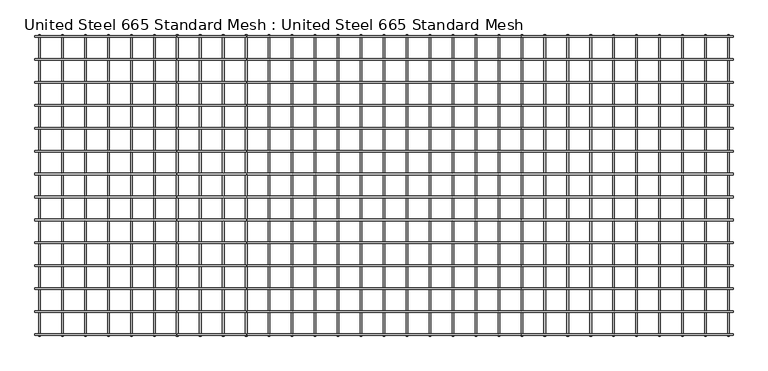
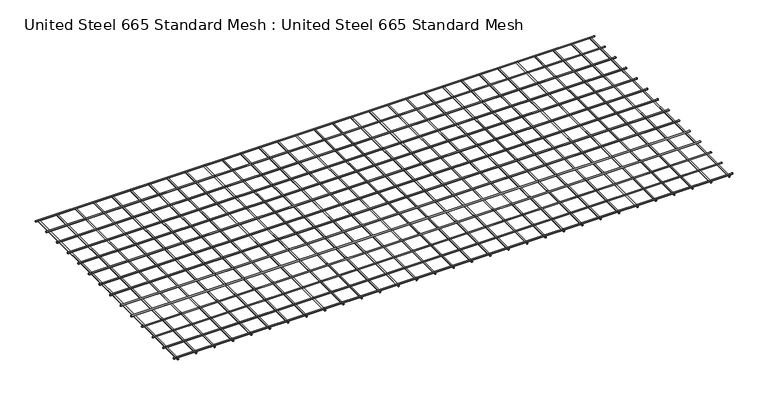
"""IFC4 building model written with IfcOpenShell, lengths in millimetres: proxy geometry, United Steel 665 Standard Mesh : United Steel 665 Standard Mesh."""

from ifc_helpers import new_model, si_unit, point, frame, frame_2d, origin, place, context, project, spatial, circle_curve, trimmed, segment, composite_curve, outline, extrude, source, transform, mapped, element, save


def united_steel_665_standard_mesh_united_steel_665_standard_acaadd5a(model_context):
    return source(origin(), model_context, "Body", "SweptSolid", [
        extrude(outline(composite_curve([segment(trimmed(circle_curve(frame_2d((-160.258988, 15.8848475)), 5.3), [point((-165.558988, 15.8848475))], [point((-154.958988, 15.8848475))], False, "CARTESIAN"), True, "CONTINUOUS"), segment(trimmed(circle_curve(frame_2d((-160.258988, 15.8848475)), 5.3), [point((-154.958988, 15.8848475))], [point((-165.558988, 15.8848475))], False, "CARTESIAN"), True, "CONTINUOUS")], self_intersect=False)), frame((-4560.0, 0.0, 0.0), z_axis=(1.0, 0.0, 0.0), x_axis=(0.0, 1.0, 0.0)), (0.0, 0.0, 1.0), 4560.0),
        extrude(outline(composite_curve([segment(trimmed(circle_curve(frame_2d((5.2898928, -4380.0336269)), 5.3), [point((5.2898928, -4385.3336269))], [point((5.2898928, -4374.7336269))], False, "CARTESIAN"), True, "CONTINUOUS"), segment(trimmed(circle_curve(frame_2d((5.2898928, -4380.0336269)), 5.3), [point((5.2898928, -4374.7336269))], [point((5.2898928, -4385.3336269))], False, "CARTESIAN"), True, "CONTINUOUS")], self_intersect=False)), frame((0.0, -1970.0, 0.0), z_axis=(0.0, 1.0, 0.0), x_axis=(0.0, 0.0, 1.0)), (0.0, 0.0, 1.0), 1970.0),
        extrude(outline(composite_curve([segment(trimmed(circle_curve(frame_2d((-310.2633498, 15.8848475)), 5.3), [point((-315.5633498, 15.8848475))], [point((-304.9633498, 15.8848475))], False, "CARTESIAN"), True, "CONTINUOUS"), segment(trimmed(circle_curve(frame_2d((-310.2633498, 15.8848475)), 5.3), [point((-304.9633498, 15.8848475))], [point((-315.5633498, 15.8848475))], False, "CARTESIAN"), True, "CONTINUOUS")], self_intersect=False)), frame((-4560.0, 0.0, 0.0), z_axis=(1.0, 0.0, 0.0), x_axis=(0.0, 1.0, 0.0)), (0.0, 0.0, 1.0), 4560.0),
        extrude(outline(composite_curve([segment(trimmed(circle_curve(frame_2d((-460.2677116, 15.8848475)), 5.3), [point((-465.5677116, 15.8848475))], [point((-454.9677116, 15.8848475))], False, "CARTESIAN"), True, "CONTINUOUS"), segment(trimmed(circle_curve(frame_2d((-460.2677116, 15.8848475)), 5.3), [point((-454.9677116, 15.8848475))], [point((-465.5677116, 15.8848475))], False, "CARTESIAN"), True, "CONTINUOUS")], self_intersect=False)), frame((-4560.0, 0.0, 0.0), z_axis=(1.0, 0.0, 0.0), x_axis=(0.0, 1.0, 0.0)), (0.0, 0.0, 1.0), 4560.0),
        extrude(outline(composite_curve([segment(trimmed(circle_curve(frame_2d((5.2898928, -4230.0270638)), 5.3), [point((5.2898928, -4235.3270638))], [point((5.2898928, -4224.7270638))], False, "CARTESIAN"), True, "CONTINUOUS"), segment(trimmed(circle_curve(frame_2d((5.2898928, -4230.0270638)), 5.3), [point((5.2898928, -4224.7270638))], [point((5.2898928, -4235.3270638))], False, "CARTESIAN"), True, "CONTINUOUS")], self_intersect=False)), frame((0.0, -1970.0, 0.0), z_axis=(0.0, 1.0, 0.0), x_axis=(0.0, 0.0, 1.0)), (0.0, 0.0, 1.0), 1970.0),
        extrude(outline(composite_curve([segment(trimmed(circle_curve(frame_2d((5.2898928, -4080.0205008)), 5.3), [point((5.2898928, -4085.3205008))], [point((5.2898928, -4074.7205008))], False, "CARTESIAN"), True, "CONTINUOUS"), segment(trimmed(circle_curve(frame_2d((5.2898928, -4080.0205008)), 5.3), [point((5.2898928, -4074.7205008))], [point((5.2898928, -4085.3205008))], False, "CARTESIAN"), True, "CONTINUOUS")], self_intersect=False)), frame((0.0, -1970.0, 0.0), z_axis=(0.0, 1.0, 0.0), x_axis=(0.0, 0.0, 1.0)), (0.0, 0.0, 1.0), 1970.0),
        extrude(outline(composite_curve([segment(trimmed(circle_curve(frame_2d((5.2898928, -3930.0139377)), 5.3), [point((5.2898928, -3935.3139377))], [point((5.2898928, -3924.7139377))], False, "CARTESIAN"), True, "CONTINUOUS"), segment(trimmed(circle_curve(frame_2d((5.2898928, -3930.0139377)), 5.3), [point((5.2898928, -3924.7139377))], [point((5.2898928, -3935.3139377))], False, "CARTESIAN"), True, "CONTINUOUS")], self_intersect=False)), frame((0.0, -1970.0, 0.0), z_axis=(0.0, 1.0, 0.0), x_axis=(0.0, 0.0, 1.0)), (0.0, 0.0, 1.0), 1970.0),
        extrude(outline(composite_curve([segment(trimmed(circle_curve(frame_2d((5.2898928, -3780.0073746)), 5.3), [point((5.2898928, -3785.3073746))], [point((5.2898928, -3774.7073746))], False, "CARTESIAN"), True, "CONTINUOUS"), segment(trimmed(circle_curve(frame_2d((5.2898928, -3780.0073746)), 5.3), [point((5.2898928, -3774.7073746))], [point((5.2898928, -3785.3073746))], False, "CARTESIAN"), True, "CONTINUOUS")], self_intersect=False)), frame((0.0, -1970.0, 0.0), z_axis=(0.0, 1.0, 0.0), x_axis=(0.0, 0.0, 1.0)), (0.0, 0.0, 1.0), 1970.0),
        extrude(outline(composite_curve([segment(trimmed(circle_curve(frame_2d((5.2898928, -3630.0008116)), 5.3), [point((5.2898928, -3635.3008116))], [point((5.2898928, -3624.7008116))], False, "CARTESIAN"), True, "CONTINUOUS"), segment(trimmed(circle_curve(frame_2d((5.2898928, -3630.0008116)), 5.3), [point((5.2898928, -3624.7008116))], [point((5.2898928, -3635.3008116))], False, "CARTESIAN"), True, "CONTINUOUS")], self_intersect=False)), frame((0.0, -1970.0, 0.0), z_axis=(0.0, 1.0, 0.0), x_axis=(0.0, 0.0, 1.0)), (0.0, 0.0, 1.0), 1970.0),
        extrude(outline(composite_curve([segment(trimmed(circle_curve(frame_2d((5.2898928, -3479.9942485)), 5.3), [point((5.2898928, -3485.2942485))], [point((5.2898928, -3474.6942485))], False, "CARTESIAN"), True, "CONTINUOUS"), segment(trimmed(circle_curve(frame_2d((5.2898928, -3479.9942485)), 5.3), [point((5.2898928, -3474.6942485))], [point((5.2898928, -3485.2942485))], False, "CARTESIAN"), True, "CONTINUOUS")], self_intersect=False)), frame((0.0, -1970.0, 0.0), z_axis=(0.0, 1.0, 0.0), x_axis=(0.0, 0.0, 1.0)), (0.0, 0.0, 1.0), 1970.0),
        extrude(outline(composite_curve([segment(trimmed(circle_curve(frame_2d((5.2898928, -3329.9876855)), 5.3), [point((5.2898928, -3335.2876855))], [point((5.2898928, -3324.6876855))], False, "CARTESIAN"), True, "CONTINUOUS"), segment(trimmed(circle_curve(frame_2d((5.2898928, -3329.9876855)), 5.3), [point((5.2898928, -3324.6876855))], [point((5.2898928, -3335.2876855))], False, "CARTESIAN"), True, "CONTINUOUS")], self_intersect=False)), frame((0.0, -1970.0, 0.0), z_axis=(0.0, 1.0, 0.0), x_axis=(0.0, 0.0, 1.0)), (0.0, 0.0, 1.0), 1970.0),
        extrude(outline(composite_curve([segment(trimmed(circle_curve(frame_2d((-610.2720734, 15.8848475)), 5.3), [point((-615.5720734, 15.8848475))], [point((-604.9720734, 15.8848475))], False, "CARTESIAN"), True, "CONTINUOUS"), segment(trimmed(circle_curve(frame_2d((-610.2720734, 15.8848475)), 5.3), [point((-604.9720734, 15.8848475))], [point((-615.5720734, 15.8848475))], False, "CARTESIAN"), True, "CONTINUOUS")], self_intersect=False)), frame((-4560.0, 0.0, 0.0), z_axis=(1.0, 0.0, 0.0), x_axis=(0.0, 1.0, 0.0)), (0.0, 0.0, 1.0), 4560.0),
        extrude(outline(composite_curve([segment(trimmed(circle_curve(frame_2d((-760.2764352, 15.8848475)), 5.3), [point((-765.5764352, 15.8848475))], [point((-754.9764352, 15.8848475))], False, "CARTESIAN"), True, "CONTINUOUS"), segment(trimmed(circle_curve(frame_2d((-760.2764352, 15.8848475)), 5.3), [point((-754.9764352, 15.8848475))], [point((-765.5764352, 15.8848475))], False, "CARTESIAN"), True, "CONTINUOUS")], self_intersect=False)), frame((-4560.0, 0.0, 0.0), z_axis=(1.0, 0.0, 0.0), x_axis=(0.0, 1.0, 0.0)), (0.0, 0.0, 1.0), 4560.0),
        extrude(outline(composite_curve([segment(trimmed(circle_curve(frame_2d((-910.280797, 15.8848475)), 5.3), [point((-915.580797, 15.8848475))], [point((-904.980797, 15.8848475))], False, "CARTESIAN"), True, "CONTINUOUS"), segment(trimmed(circle_curve(frame_2d((-910.280797, 15.8848475)), 5.3), [point((-904.980797, 15.8848475))], [point((-915.580797, 15.8848475))], False, "CARTESIAN"), True, "CONTINUOUS")], self_intersect=False)), frame((-4560.0, 0.0, 0.0), z_axis=(1.0, 0.0, 0.0), x_axis=(0.0, 1.0, 0.0)), (0.0, 0.0, 1.0), 4560.0),
        extrude(outline(composite_curve([segment(trimmed(circle_curve(frame_2d((-1060.2851588, 15.8848475)), 5.3), [point((-1065.5851588, 15.8848475))], [point((-1054.9851588, 15.8848475))], False, "CARTESIAN"), True, "CONTINUOUS"), segment(trimmed(circle_curve(frame_2d((-1060.2851588, 15.8848475)), 5.3), [point((-1054.9851588, 15.8848475))], [point((-1065.5851588, 15.8848475))], False, "CARTESIAN"), True, "CONTINUOUS")], self_intersect=False)), frame((-4560.0, 0.0, 0.0), z_axis=(1.0, 0.0, 0.0), x_axis=(0.0, 1.0, 0.0)), (0.0, 0.0, 1.0), 4560.0),
        extrude(outline(composite_curve([segment(trimmed(circle_curve(frame_2d((-1210.2895206, 15.8848475)), 5.3), [point((-1215.5895206, 15.8848475))], [point((-1204.9895206, 15.8848475))], False, "CARTESIAN"), True, "CONTINUOUS"), segment(trimmed(circle_curve(frame_2d((-1210.2895206, 15.8848475)), 5.3), [point((-1204.9895206, 15.8848475))], [point((-1215.5895206, 15.8848475))], False, "CARTESIAN"), True, "CONTINUOUS")], self_intersect=False)), frame((-4560.0, 0.0, 0.0), z_axis=(1.0, 0.0, 0.0), x_axis=(0.0, 1.0, 0.0)), (0.0, 0.0, 1.0), 4560.0),
        extrude(outline(composite_curve([segment(trimmed(circle_curve(frame_2d((-1360.2938824, 15.8848475)), 5.3), [point((-1365.5938824, 15.8848475))], [point((-1354.9938824, 15.8848475))], False, "CARTESIAN"), True, "CONTINUOUS"), segment(trimmed(circle_curve(frame_2d((-1360.2938824, 15.8848475)), 5.3), [point((-1354.9938824, 15.8848475))], [point((-1365.5938824, 15.8848475))], False, "CARTESIAN"), True, "CONTINUOUS")], self_intersect=False)), frame((-4560.0, 0.0, 0.0), z_axis=(1.0, 0.0, 0.0), x_axis=(0.0, 1.0, 0.0)), (0.0, 0.0, 1.0), 4560.0),
        extrude(outline(composite_curve([segment(trimmed(circle_curve(frame_2d((-1510.2982442, 15.8848475)), 5.3), [point((-1515.5982442, 15.8848475))], [point((-1504.9982442, 15.8848475))], False, "CARTESIAN"), True, "CONTINUOUS"), segment(trimmed(circle_curve(frame_2d((-1510.2982442, 15.8848475)), 5.3), [point((-1504.9982442, 15.8848475))], [point((-1515.5982442, 15.8848475))], False, "CARTESIAN"), True, "CONTINUOUS")], self_intersect=False)), frame((-4560.0, 0.0, 0.0), z_axis=(1.0, 0.0, 0.0), x_axis=(0.0, 1.0, 0.0)), (0.0, 0.0, 1.0), 4560.0),
        extrude(outline(composite_curve([segment(trimmed(circle_curve(frame_2d((-1660.302606, 15.8848475)), 5.3), [point((-1665.602606, 15.8848475))], [point((-1655.002606, 15.8848475))], False, "CARTESIAN"), True, "CONTINUOUS"), segment(trimmed(circle_curve(frame_2d((-1660.302606, 15.8848475)), 5.3), [point((-1655.002606, 15.8848475))], [point((-1665.602606, 15.8848475))], False, "CARTESIAN"), True, "CONTINUOUS")], self_intersect=False)), frame((-4560.0, 0.0, 0.0), z_axis=(1.0, 0.0, 0.0), x_axis=(0.0, 1.0, 0.0)), (0.0, 0.0, 1.0), 4560.0),
        extrude(outline(composite_curve([segment(trimmed(circle_curve(frame_2d((-1810.3069678, 15.8848475)), 5.3), [point((-1815.6069678, 15.8848475))], [point((-1805.0069678, 15.8848475))], False, "CARTESIAN"), True, "CONTINUOUS"), segment(trimmed(circle_curve(frame_2d((-1810.3069678, 15.8848475)), 5.3), [point((-1805.0069678, 15.8848475))], [point((-1815.6069678, 15.8848475))], False, "CARTESIAN"), True, "CONTINUOUS")], self_intersect=False)), frame((-4560.0, 0.0, 0.0), z_axis=(1.0, 0.0, 0.0), x_axis=(0.0, 1.0, 0.0)), (0.0, 0.0, 1.0), 4560.0),
        extrude(outline(composite_curve([segment(trimmed(circle_curve(frame_2d((-10.2546262, 15.8848475)), 5.3), [point((-15.5546262, 15.8848475))], [point((-4.9546262, 15.8848475))], False, "CARTESIAN"), True, "CONTINUOUS"), segment(trimmed(circle_curve(frame_2d((-10.2546262, 15.8848475)), 5.3), [point((-4.9546262, 15.8848475))], [point((-15.5546262, 15.8848475))], False, "CARTESIAN"), True, "CONTINUOUS")], self_intersect=False)), frame((-4560.0, 0.0, 0.0), z_axis=(1.0, 0.0, 0.0), x_axis=(0.0, 1.0, 0.0)), (0.0, 0.0, 1.0), 4560.0),
        extrude(outline(composite_curve([segment(trimmed(circle_curve(frame_2d((-1960.3113296, 15.8848475)), 5.3), [point((-1965.6113296, 15.8848475))], [point((-1955.0113296, 15.8848475))], False, "CARTESIAN"), True, "CONTINUOUS"), segment(trimmed(circle_curve(frame_2d((-1960.3113296, 15.8848475)), 5.3), [point((-1955.0113296, 15.8848475))], [point((-1965.6113296, 15.8848475))], False, "CARTESIAN"), True, "CONTINUOUS")], self_intersect=False)), frame((-4560.0, 0.0, 0.0), z_axis=(1.0, 0.0, 0.0), x_axis=(0.0, 1.0, 0.0)), (0.0, 0.0, 1.0), 4560.0),
        extrude(outline(composite_curve([segment(trimmed(circle_curve(frame_2d((5.2898928, -3179.9811224)), 5.3), [point((5.2898928, -3185.2811224))], [point((5.2898928, -3174.6811224))], False, "CARTESIAN"), True, "CONTINUOUS"), segment(trimmed(circle_curve(frame_2d((5.2898928, -3179.9811224)), 5.3), [point((5.2898928, -3174.6811224))], [point((5.2898928, -3185.2811224))], False, "CARTESIAN"), True, "CONTINUOUS")], self_intersect=False)), frame((0.0, -1970.0, 0.0), z_axis=(0.0, 1.0, 0.0), x_axis=(0.0, 0.0, 1.0)), (0.0, 0.0, 1.0), 1970.0),
        extrude(outline(composite_curve([segment(trimmed(circle_curve(frame_2d((5.2898928, -3029.9745593)), 5.3), [point((5.2898928, -3035.2745593))], [point((5.2898928, -3024.6745593))], False, "CARTESIAN"), True, "CONTINUOUS"), segment(trimmed(circle_curve(frame_2d((5.2898928, -3029.9745593)), 5.3), [point((5.2898928, -3024.6745593))], [point((5.2898928, -3035.2745593))], False, "CARTESIAN"), True, "CONTINUOUS")], self_intersect=False)), frame((0.0, -1970.0, 0.0), z_axis=(0.0, 1.0, 0.0), x_axis=(0.0, 0.0, 1.0)), (0.0, 0.0, 1.0), 1970.0),
        extrude(outline(composite_curve([segment(trimmed(circle_curve(frame_2d((5.2898928, -2879.9679963)), 5.3), [point((5.2898928, -2885.2679963))], [point((5.2898928, -2874.6679963))], False, "CARTESIAN"), True, "CONTINUOUS"), segment(trimmed(circle_curve(frame_2d((5.2898928, -2879.9679963)), 5.3), [point((5.2898928, -2874.6679963))], [point((5.2898928, -2885.2679963))], False, "CARTESIAN"), True, "CONTINUOUS")], self_intersect=False)), frame((0.0, -1970.0, 0.0), z_axis=(0.0, 1.0, 0.0), x_axis=(0.0, 0.0, 1.0)), (0.0, 0.0, 1.0), 1970.0),
        extrude(outline(composite_curve([segment(trimmed(circle_curve(frame_2d((5.2898928, -2729.9614332)), 5.3), [point((5.2898928, -2735.2614332))], [point((5.2898928, -2724.6614332))], False, "CARTESIAN"), True, "CONTINUOUS"), segment(trimmed(circle_curve(frame_2d((5.2898928, -2729.9614332)), 5.3), [point((5.2898928, -2724.6614332))], [point((5.2898928, -2735.2614332))], False, "CARTESIAN"), True, "CONTINUOUS")], self_intersect=False)), frame((0.0, -1970.0, 0.0), z_axis=(0.0, 1.0, 0.0), x_axis=(0.0, 0.0, 1.0)), (0.0, 0.0, 1.0), 1970.0),
        extrude(outline(composite_curve([segment(trimmed(circle_curve(frame_2d((5.2898928, -2579.9548701)), 5.3), [point((5.2898928, -2585.2548701))], [point((5.2898928, -2574.6548701))], False, "CARTESIAN"), True, "CONTINUOUS"), segment(trimmed(circle_curve(frame_2d((5.2898928, -2579.9548701)), 5.3), [point((5.2898928, -2574.6548701))], [point((5.2898928, -2585.2548701))], False, "CARTESIAN"), True, "CONTINUOUS")], self_intersect=False)), frame((0.0, -1970.0, 0.0), z_axis=(0.0, 1.0, 0.0), x_axis=(0.0, 0.0, 1.0)), (0.0, 0.0, 1.0), 1970.0),
        extrude(outline(composite_curve([segment(trimmed(circle_curve(frame_2d((5.2898928, -2429.9483071)), 5.3), [point((5.2898928, -2435.2483071))], [point((5.2898928, -2424.6483071))], False, "CARTESIAN"), True, "CONTINUOUS"), segment(trimmed(circle_curve(frame_2d((5.2898928, -2429.9483071)), 5.3), [point((5.2898928, -2424.6483071))], [point((5.2898928, -2435.2483071))], False, "CARTESIAN"), True, "CONTINUOUS")], self_intersect=False)), frame((0.0, -1970.0, 0.0), z_axis=(0.0, 1.0, 0.0), x_axis=(0.0, 0.0, 1.0)), (0.0, 0.0, 1.0), 1970.0),
        extrude(outline(composite_curve([segment(trimmed(circle_curve(frame_2d((5.2898928, -2279.941744)), 5.3), [point((5.2898928, -2285.241744))], [point((5.2898928, -2274.641744))], False, "CARTESIAN"), True, "CONTINUOUS"), segment(trimmed(circle_curve(frame_2d((5.2898928, -2279.941744)), 5.3), [point((5.2898928, -2274.641744))], [point((5.2898928, -2285.241744))], False, "CARTESIAN"), True, "CONTINUOUS")], self_intersect=False)), frame((0.0, -1970.0, 0.0), z_axis=(0.0, 1.0, 0.0), x_axis=(0.0, 0.0, 1.0)), (0.0, 0.0, 1.0), 1970.0),
        extrude(outline(composite_curve([segment(trimmed(circle_curve(frame_2d((5.2898928, -2129.9351809)), 5.3), [point((5.2898928, -2135.2351809))], [point((5.2898928, -2124.6351809))], False, "CARTESIAN"), True, "CONTINUOUS"), segment(trimmed(circle_curve(frame_2d((5.2898928, -2129.9351809)), 5.3), [point((5.2898928, -2124.6351809))], [point((5.2898928, -2135.2351809))], False, "CARTESIAN"), True, "CONTINUOUS")], self_intersect=False)), frame((0.0, -1970.0, 0.0), z_axis=(0.0, 1.0, 0.0), x_axis=(0.0, 0.0, 1.0)), (0.0, 0.0, 1.0), 1970.0),
        extrude(outline(composite_curve([segment(trimmed(circle_curve(frame_2d((5.2898928, -1979.9286179)), 5.3), [point((5.2898928, -1985.2286179))], [point((5.2898928, -1974.6286179))], False, "CARTESIAN"), True, "CONTINUOUS"), segment(trimmed(circle_curve(frame_2d((5.2898928, -1979.9286179)), 5.3), [point((5.2898928, -1974.6286179))], [point((5.2898928, -1985.2286179))], False, "CARTESIAN"), True, "CONTINUOUS")], self_intersect=False)), frame((0.0, -1970.0, 0.0), z_axis=(0.0, 1.0, 0.0), x_axis=(0.0, 0.0, 1.0)), (0.0, 0.0, 1.0), 1970.0),
        extrude(outline(composite_curve([segment(trimmed(circle_curve(frame_2d((5.2898928, -1829.9220548)), 5.3), [point((5.2898928, -1835.2220548))], [point((5.2898928, -1824.6220548))], False, "CARTESIAN"), True, "CONTINUOUS"), segment(trimmed(circle_curve(frame_2d((5.2898928, -1829.9220548)), 5.3), [point((5.2898928, -1824.6220548))], [point((5.2898928, -1835.2220548))], False, "CARTESIAN"), True, "CONTINUOUS")], self_intersect=False)), frame((0.0, -1970.0, 0.0), z_axis=(0.0, 1.0, 0.0), x_axis=(0.0, 0.0, 1.0)), (0.0, 0.0, 1.0), 1970.0),
        extrude(outline(composite_curve([segment(trimmed(circle_curve(frame_2d((5.2898928, -1679.9154918)), 5.3), [point((5.2898928, -1685.2154918))], [point((5.2898928, -1674.6154918))], False, "CARTESIAN"), True, "CONTINUOUS"), segment(trimmed(circle_curve(frame_2d((5.2898928, -1679.9154918)), 5.3), [point((5.2898928, -1674.6154918))], [point((5.2898928, -1685.2154918))], False, "CARTESIAN"), True, "CONTINUOUS")], self_intersect=False)), frame((0.0, -1970.0, 0.0), z_axis=(0.0, 1.0, 0.0), x_axis=(0.0, 0.0, 1.0)), (0.0, 0.0, 1.0), 1970.0),
        extrude(outline(composite_curve([segment(trimmed(circle_curve(frame_2d((5.2898928, -1529.9089287)), 5.3), [point((5.2898928, -1535.2089287))], [point((5.2898928, -1524.6089287))], False, "CARTESIAN"), True, "CONTINUOUS"), segment(trimmed(circle_curve(frame_2d((5.2898928, -1529.9089287)), 5.3), [point((5.2898928, -1524.6089287))], [point((5.2898928, -1535.2089287))], False, "CARTESIAN"), True, "CONTINUOUS")], self_intersect=False)), frame((0.0, -1970.0, 0.0), z_axis=(0.0, 1.0, 0.0), x_axis=(0.0, 0.0, 1.0)), (0.0, 0.0, 1.0), 1970.0),
        extrude(outline(composite_curve([segment(trimmed(circle_curve(frame_2d((5.2898928, -1379.9023656)), 5.3), [point((5.2898928, -1385.2023656))], [point((5.2898928, -1374.6023656))], False, "CARTESIAN"), True, "CONTINUOUS"), segment(trimmed(circle_curve(frame_2d((5.2898928, -1379.9023656)), 5.3), [point((5.2898928, -1374.6023656))], [point((5.2898928, -1385.2023656))], False, "CARTESIAN"), True, "CONTINUOUS")], self_intersect=False)), frame((0.0, -1970.0, 0.0), z_axis=(0.0, 1.0, 0.0), x_axis=(0.0, 0.0, 1.0)), (0.0, 0.0, 1.0), 1970.0),
        extrude(outline(composite_curve([segment(trimmed(circle_curve(frame_2d((5.2898928, -1229.8958026)), 5.3), [point((5.2898928, -1235.1958026))], [point((5.2898928, -1224.5958026))], False, "CARTESIAN"), True, "CONTINUOUS"), segment(trimmed(circle_curve(frame_2d((5.2898928, -1229.8958026)), 5.3), [point((5.2898928, -1224.5958026))], [point((5.2898928, -1235.1958026))], False, "CARTESIAN"), True, "CONTINUOUS")], self_intersect=False)), frame((0.0, -1970.0, 0.0), z_axis=(0.0, 1.0, 0.0), x_axis=(0.0, 0.0, 1.0)), (0.0, 0.0, 1.0), 1970.0),
        extrude(outline(composite_curve([segment(trimmed(circle_curve(frame_2d((5.2898928, -1079.8892395)), 5.3), [point((5.2898928, -1085.1892395))], [point((5.2898928, -1074.5892395))], False, "CARTESIAN"), True, "CONTINUOUS"), segment(trimmed(circle_curve(frame_2d((5.2898928, -1079.8892395)), 5.3), [point((5.2898928, -1074.5892395))], [point((5.2898928, -1085.1892395))], False, "CARTESIAN"), True, "CONTINUOUS")], self_intersect=False)), frame((0.0, -1970.0, 0.0), z_axis=(0.0, 1.0, 0.0), x_axis=(0.0, 0.0, 1.0)), (0.0, 0.0, 1.0), 1970.0),
        extrude(outline(composite_curve([segment(trimmed(circle_curve(frame_2d((5.2898928, -929.8826764)), 5.3), [point((5.2898928, -935.1826764))], [point((5.2898928, -924.5826764))], False, "CARTESIAN"), True, "CONTINUOUS"), segment(trimmed(circle_curve(frame_2d((5.2898928, -929.8826764)), 5.3), [point((5.2898928, -924.5826764))], [point((5.2898928, -935.1826764))], False, "CARTESIAN"), True, "CONTINUOUS")], self_intersect=False)), frame((0.0, -1970.0, 0.0), z_axis=(0.0, 1.0, 0.0), x_axis=(0.0, 0.0, 1.0)), (0.0, 0.0, 1.0), 1970.0),
        extrude(outline(composite_curve([segment(trimmed(circle_curve(frame_2d((5.2898928, -779.8761134)), 5.3), [point((5.2898928, -785.1761134))], [point((5.2898928, -774.5761134))], False, "CARTESIAN"), True, "CONTINUOUS"), segment(trimmed(circle_curve(frame_2d((5.2898928, -779.8761134)), 5.3), [point((5.2898928, -774.5761134))], [point((5.2898928, -785.1761134))], False, "CARTESIAN"), True, "CONTINUOUS")], self_intersect=False)), frame((0.0, -1970.0, 0.0), z_axis=(0.0, 1.0, 0.0), x_axis=(0.0, 0.0, 1.0)), (0.0, 0.0, 1.0), 1970.0),
        extrude(outline(composite_curve([segment(trimmed(circle_curve(frame_2d((5.2898928, -629.8695503)), 5.3), [point((5.2898928, -635.1695503))], [point((5.2898928, -624.5695503))], False, "CARTESIAN"), True, "CONTINUOUS"), segment(trimmed(circle_curve(frame_2d((5.2898928, -629.8695503)), 5.3), [point((5.2898928, -624.5695503))], [point((5.2898928, -635.1695503))], False, "CARTESIAN"), True, "CONTINUOUS")], self_intersect=False)), frame((0.0, -1970.0, 0.0), z_axis=(0.0, 1.0, 0.0), x_axis=(0.0, 0.0, 1.0)), (0.0, 0.0, 1.0), 1970.0),
        extrude(outline(composite_curve([segment(trimmed(circle_curve(frame_2d((5.2898928, -479.8629872)), 5.3), [point((5.2898928, -485.1629872))], [point((5.2898928, -474.5629872))], False, "CARTESIAN"), True, "CONTINUOUS"), segment(trimmed(circle_curve(frame_2d((5.2898928, -479.8629872)), 5.3), [point((5.2898928, -474.5629872))], [point((5.2898928, -485.1629872))], False, "CARTESIAN"), True, "CONTINUOUS")], self_intersect=False)), frame((0.0, -1970.0, 0.0), z_axis=(0.0, 1.0, 0.0), x_axis=(0.0, 0.0, 1.0)), (0.0, 0.0, 1.0), 1970.0),
        extrude(outline(composite_curve([segment(trimmed(circle_curve(frame_2d((5.2898928, -329.8564242)), 5.3), [point((5.2898928, -335.1564242))], [point((5.2898928, -324.5564242))], False, "CARTESIAN"), True, "CONTINUOUS"), segment(trimmed(circle_curve(frame_2d((5.2898928, -329.8564242)), 5.3), [point((5.2898928, -324.5564242))], [point((5.2898928, -335.1564242))], False, "CARTESIAN"), True, "CONTINUOUS")], self_intersect=False)), frame((0.0, -1970.0, 0.0), z_axis=(0.0, 1.0, 0.0), x_axis=(0.0, 0.0, 1.0)), (0.0, 0.0, 1.0), 1970.0),
        extrude(outline(composite_curve([segment(trimmed(circle_curve(frame_2d((5.2898928, -179.8498611)), 5.3), [point((5.2898928, -185.1498611))], [point((5.2898928, -174.5498611))], False, "CARTESIAN"), True, "CONTINUOUS"), segment(trimmed(circle_curve(frame_2d((5.2898928, -179.8498611)), 5.3), [point((5.2898928, -174.5498611))], [point((5.2898928, -185.1498611))], False, "CARTESIAN"), True, "CONTINUOUS")], self_intersect=False)), frame((0.0, -1970.0, 0.0), z_axis=(0.0, 1.0, 0.0), x_axis=(0.0, 0.0, 1.0)), (0.0, 0.0, 1.0), 1970.0),
        extrude(outline(composite_curve([segment(trimmed(circle_curve(frame_2d((5.2898928, -4530.04019)), 5.3), [point((5.2898928, -4535.34019))], [point((5.2898928, -4524.74019))], False, "CARTESIAN"), True, "CONTINUOUS"), segment(trimmed(circle_curve(frame_2d((5.2898928, -4530.04019)), 5.3), [point((5.2898928, -4524.74019))], [point((5.2898928, -4535.34019))], False, "CARTESIAN"), True, "CONTINUOUS")], self_intersect=False)), frame((0.0, -1970.0, 0.0), z_axis=(0.0, 1.0, 0.0), x_axis=(0.0, 0.0, 1.0)), (0.0, 0.0, 1.0), 1970.0),
        extrude(outline(composite_curve([segment(trimmed(circle_curve(frame_2d((5.2898928, -29.8432981)), 5.3), [point((5.2898928, -35.1432981))], [point((5.2898928, -24.5432981))], False, "CARTESIAN"), True, "CONTINUOUS"), segment(trimmed(circle_curve(frame_2d((5.2898928, -29.8432981)), 5.3), [point((5.2898928, -24.5432981))], [point((5.2898928, -35.1432981))], False, "CARTESIAN"), True, "CONTINUOUS")], self_intersect=False)), frame((0.0, -1970.0, 0.0), z_axis=(0.0, 1.0, 0.0), x_axis=(0.0, 0.0, 1.0)), (0.0, 0.0, 1.0), 1970.0),
    ])


if __name__ == "__main__":
    model = new_model("IFC4")
    model_context = context("Model", 3, world=origin())
    ifc_project = project(units=[si_unit("LENGTHUNIT", "METRE", prefix="MILLI")], contexts=[model_context])
    site = spatial("IfcSite", under=ifc_project)
    building = spatial("IfcBuilding", under=site)
    placement = place(None, origin())
    united_steel_665_standard_mesh_united_steel_665_standard_shape = united_steel_665_standard_mesh_united_steel_665_standard_acaadd5a(model_context)
    element("IfcBuildingElementProxy", 1, Name="United Steel 665 Standard Mesh : United Steel 665 Standard Mesh", ObjectType="United Steel 665 Standard Mesh : United Steel 665 Standard Mesh", at=placement, inside=building, context=model_context, shape_type="MappedRepresentation", body=[
        mapped(united_steel_665_standard_mesh_united_steel_665_standard_shape, transform((0.0, 0.0, 0.0), x_axis=(1.0, 0.0, 0.0), y_axis=(0.0, 1.0, 0.0), z_axis=(0.0, 0.0, 1.0))),
    ])
    save(model, "model.ifc")
